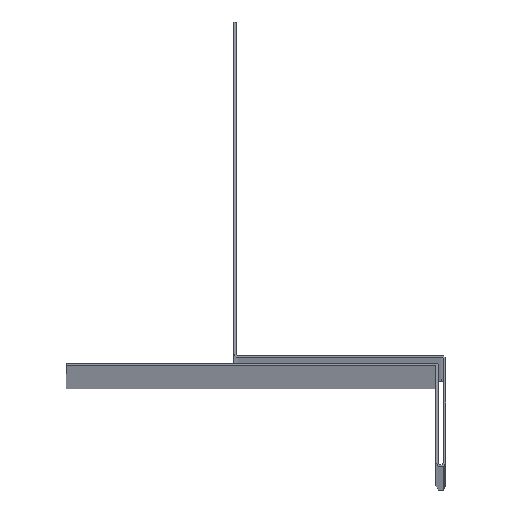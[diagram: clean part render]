
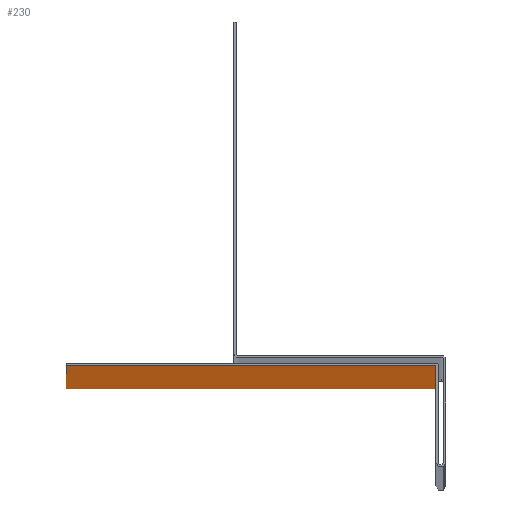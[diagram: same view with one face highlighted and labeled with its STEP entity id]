
A CAD part, top view. The second image highlights one B-rep face of the part: STEP entity #230.
In plain terms, the highlighted planar face has unit normal (0, -1, 0).
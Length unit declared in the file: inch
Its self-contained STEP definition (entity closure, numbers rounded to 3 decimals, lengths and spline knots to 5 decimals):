
#30 = AXIS2_PLACEMENT_3D ( 'NONE', #344, #567, #140 ) ;
#35 = FACE_OUTER_BOUND ( 'NONE', #474, .T. ) ;
#81 = VECTOR ( 'NONE', #667, 39.37008 ) ;
#140 = DIRECTION ( 'NONE',  ( 1., 0., 0. ) ) ;
#158 = EDGE_CURVE ( 'NONE', #475, #493, #201, .T. ) ;
#170 = LINE ( 'NONE', #268, #173 ) ;
#173 = VECTOR ( 'NONE', #220, 39.37008 ) ;
#186 = LINE ( 'NONE', #522, #643 ) ;
#187 = CARTESIAN_POINT ( 'NONE',  ( 1.805, -0.07, 0. ) ) ;
#201 = LINE ( 'NONE', #254, #81 ) ;
#220 = DIRECTION ( 'NONE',  ( 0., 0., -1. ) ) ;
#230 = ADVANCED_FACE ( 'NONE', ( #35 ), #250, .T. ) ;
#250 = PLANE ( 'NONE',  #30 ) ;
#254 = CARTESIAN_POINT ( 'NONE',  ( 0., -0.07, 120. ) ) ;
#268 = CARTESIAN_POINT ( 'NONE',  ( -1.5, -0.07, 120. ) ) ;
#295 = ORIENTED_EDGE ( 'NONE', *, *, #158, .T. ) ;
#318 = CARTESIAN_POINT ( 'NONE',  ( 1.815, -0.07, 0. ) ) ;
#328 = ORIENTED_EDGE ( 'NONE', *, *, #798, .F. ) ;
#344 = CARTESIAN_POINT ( 'NONE',  ( 1.815, -0.07, 120. ) ) ;
#371 = EDGE_CURVE ( 'NONE', #493, #551, #170, .T. ) ;
#389 = VECTOR ( 'NONE', #827, 39.37008 ) ;
#392 = EDGE_CURVE ( 'NONE', #416, #551, #597, .T. ) ;
#416 = VERTEX_POINT ( 'NONE', #187 ) ;
#418 = CARTESIAN_POINT ( 'NONE',  ( -1.5, -0.07, 120. ) ) ;
#474 = EDGE_LOOP ( 'NONE', ( #683, #328, #295, #600 ) ) ;
#475 = VERTEX_POINT ( 'NONE', #725 ) ;
#493 = VERTEX_POINT ( 'NONE', #418 ) ;
#507 = CARTESIAN_POINT ( 'NONE',  ( -1.5, -0.07, 0. ) ) ;
#522 = CARTESIAN_POINT ( 'NONE',  ( 1.805, -0.07, 120. ) ) ;
#526 = DIRECTION ( 'NONE',  ( 0., 0., -1. ) ) ;
#551 = VERTEX_POINT ( 'NONE', #507 ) ;
#567 = DIRECTION ( 'NONE',  ( 0., -1., 0. ) ) ;
#597 = LINE ( 'NONE', #318, #389 ) ;
#600 = ORIENTED_EDGE ( 'NONE', *, *, #371, .T. ) ;
#643 = VECTOR ( 'NONE', #526, 39.37008 ) ;
#667 = DIRECTION ( 'NONE',  ( -1., 0., 0. ) ) ;
#683 = ORIENTED_EDGE ( 'NONE', *, *, #392, .F. ) ;
#725 = CARTESIAN_POINT ( 'NONE',  ( 1.805, -0.07, 120. ) ) ;
#798 = EDGE_CURVE ( 'NONE', #475, #416, #186, .T. ) ;
#827 = DIRECTION ( 'NONE',  ( -1., 0., 0. ) ) ;
